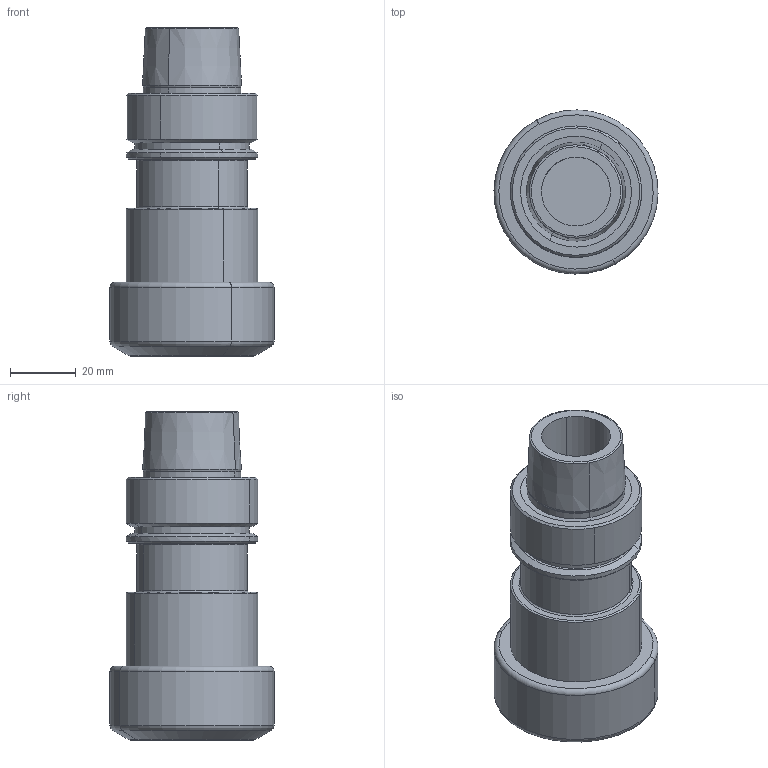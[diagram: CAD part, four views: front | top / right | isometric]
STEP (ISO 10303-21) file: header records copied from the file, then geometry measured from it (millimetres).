
FILE_DESCRIPTION(('CATIA V5 STEP','CAx-IF Rec.Pracs.--- Model Styling and Organization---1.2---2011-12-15'),'2;1');
FILE_NAME('\\nas01\drv1\utils\eitdev\rte\eit\transmagicconvert\db\out\635934602184542278\4503354-D-L-B.stp','2016-03-13T08:03:52+00:00',('none'),('none'),'CATIA Version 5 Release 21 SP 5 (IN-10)','CATIA V5 STEP AP214','none');
FILE_SCHEMA(('AUTOMOTIVE_DESIGN { 1 0 10303 214 1 1 1 1 }'));
Length unit declared in the file: millimetre
Products named in the file (1): HSK E 40 ER32X 80
Bounding box: 49.99 x 49.99 x 100 mm (x, y, z)
Volume: 80864.7 mm3; surface area: 22714 mm2
Topology: 1 solids, 1 shells, 69 faces, 144 edges, 83 vertices
Faces by surface type: cylinder 22, cone 22, torus 16, plane 9
Entity records: 1617 total; most frequent: ORIENTED_EDGE 284, CARTESIAN_POINT 267, DIRECTION 224, EDGE_CURVE 142, AXIS2_PLACEMENT_3D 140, CIRCLE 98, VERTEX_POINT 83, EDGE_LOOP 77
